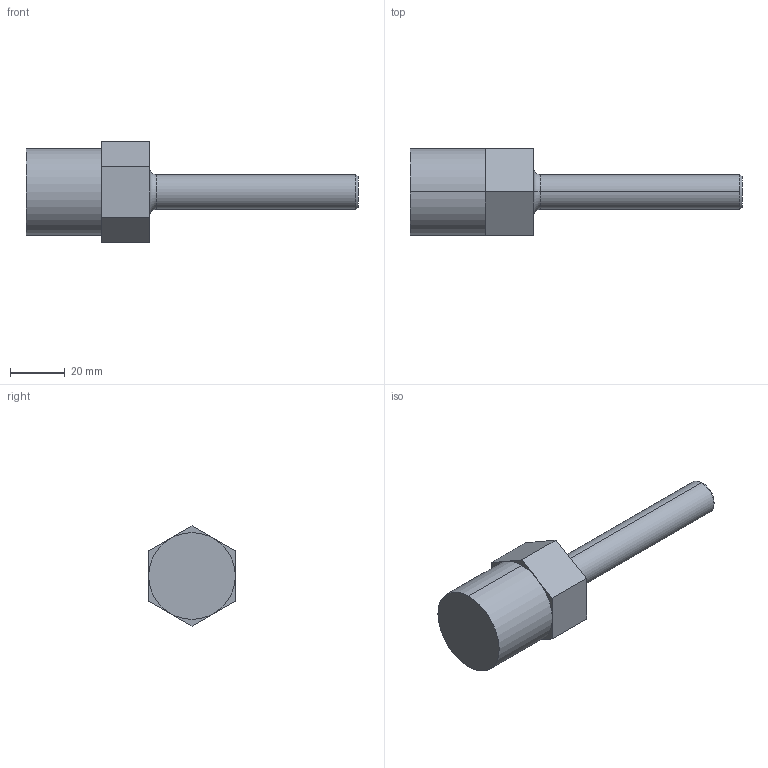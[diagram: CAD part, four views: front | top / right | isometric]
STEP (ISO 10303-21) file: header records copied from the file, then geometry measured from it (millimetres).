
FILE_DESCRIPTION (( 'STEP AP214' ), '1' );
FILE_NAME ('Fitting Tubeout 08.STEP', '2012-09-26T21:44:46', ( '' ), ( '' ), 'SwSTEP 2.0', 'SolidWorks 2012', '' );
FILE_SCHEMA (( 'AUTOMOTIVE_DESIGN' ));
Length unit declared in the file: inch
Products named in the file (1): Fitting Tubeout 08
Bounding box: 121.72 x 31.75 x 36.66 mm (x, y, z)
Volume: 47074.7 mm3; surface area: 9442.9 mm2
Topology: 1 solids, 1 shells, 18 faces, 38 edges, 24 vertices
Faces by surface type: plane 10, cylinder 4, torus 2, cone 2
Entity records: 563 total; most frequent: DIRECTION 90, CARTESIAN_POINT 81, ORIENTED_EDGE 76, EDGE_CURVE 38, AXIS2_PLACEMENT_3D 33, LINE 24, VERTEX_POINT 24, VECTOR 24
